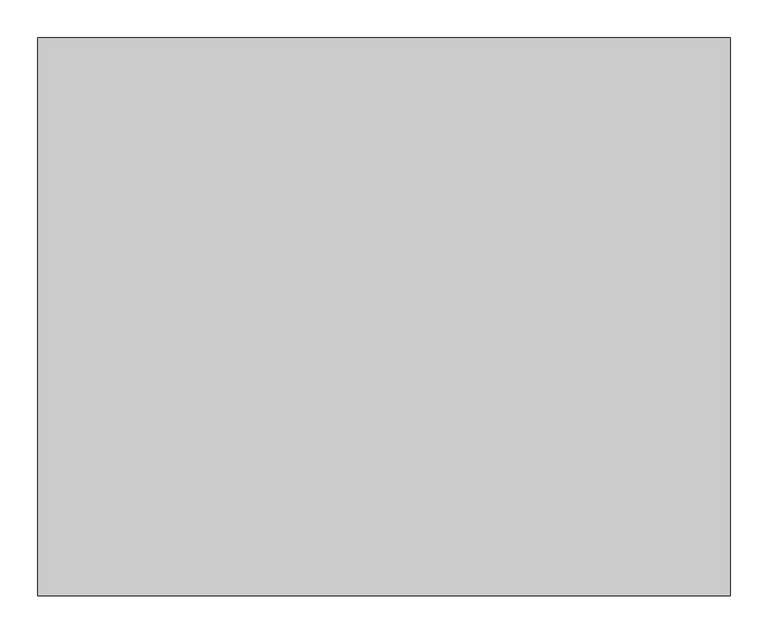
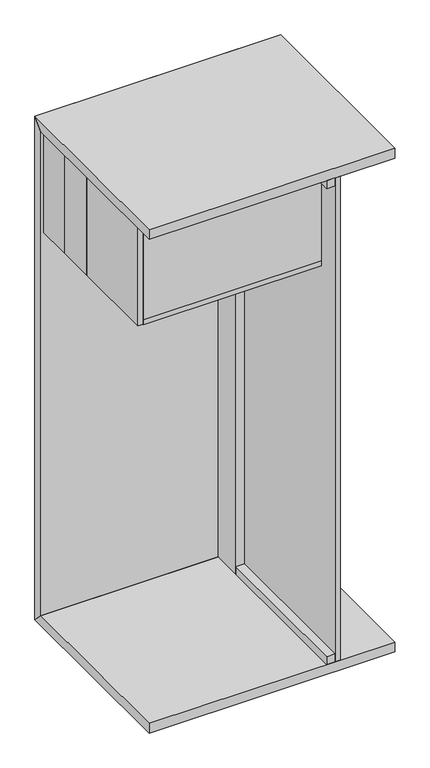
"""IFC4 building model written with IfcOpenShell, lengths in millimetres: proxy geometry, AERO^OFFICE 4_36x78 DESK PED RT HAT BRIDGE-PARTS SOLID."""

from ifc_helpers import new_model, si_unit, frame, origin, place, context, project, spatial, polyline, outline, extrude, source, transform, mapped, element, save


def generic_models_7188f9cc(model_context):
    return source(origin(), model_context, "Body", "SweptSolid", [
        extrude(outline(polyline([(0.0, -1943.1), (38.1, -1981.2), (-698.5, -1981.2), (-698.5, -1943.1), (0.0, -1943.1)])), frame((0.0, 0.0, 0.0), z_axis=(1.0, 0.0, 0.0), x_axis=(0.0, 1.0, 0.0)), (0.0, 0.0, 1.0), 914.4),
        extrude(outline(polyline([(-419.1, 692.15), (-69.85, 692.15), (-69.85, 660.4), (-57.15, 711.2), (-57.15, 28.575), (-419.1, 28.575), (-419.1, 692.15)])), frame((0.0, -609.6, 0.0), z_axis=(0.0, 1.0, 0.0), x_axis=(0.0, 0.0, 1.0)), (0.0, 0.0, 1.0), 19.05),
        extrude(outline(polyline([(692.15, -114.3), (692.15, -698.5), (660.4, -698.5), (660.4, -114.3), (692.15, -114.3)])), frame((0.0, 0.0, -69.85), z_axis=(0.0, 0.0, 1.0), x_axis=(1.0, 0.0, 0.0)), (0.0, 0.0, 1.0), 31.75),
        extrude(outline(polyline([(9.525, 9.525), (28.575, 9.525), (28.575, -134.14375), (9.525, -134.14375), (9.525, 9.525)])), frame((0.0, 0.0, -435.76875), z_axis=(0.0, 0.0, 1.0), x_axis=(1.0, 0.0, 0.0)), (0.0, 0.0, 1.0), 407.19375),
        extrude(outline(polyline([(692.15, -114.3), (692.15, -698.5), (660.4, -698.5), (660.4, -114.3), (692.15, -114.3)])), frame((0.0, 0.0, -1943.1), z_axis=(0.0, 0.0, 1.0), x_axis=(1.0, 0.0, 0.0)), (0.0, 0.0, 1.0), 31.75),
        extrude(outline(polyline([(692.15, 0.0), (692.15, -609.6), (28.575, -609.6), (28.575, 0.0), (692.15, 0.0)])), frame((0.0, 0.0, -438.15), z_axis=(0.0, 0.0, 1.0), x_axis=(1.0, 0.0, 0.0)), (0.0, 0.0, 1.0), 19.05),
        extrude(outline(polyline([(692.15, 0.0), (692.15, -114.3), (660.4, -114.3), (660.4, 0.0), (692.15, 0.0)])), frame((0.0, 0.0, -1943.1), z_axis=(0.0, 0.0, 1.0), x_axis=(1.0, 0.0, 0.0)), (0.0, 0.0, 1.0), 1905.0),
        extrude(outline(polyline([(9.525, -609.6), (9.525, -282.575), (28.575, -282.575), (28.575, -609.6), (9.525, -609.6)])), frame((0.0, 0.0, -435.76875), z_axis=(0.0, 0.0, 1.0), x_axis=(1.0, 0.0, 0.0)), (0.0, 0.0, 1.0), 407.19375),
        extrude(outline(polyline([(28.575, 0.0), (711.2, 0.0), (711.2, -609.6), (28.575, -609.6), (28.575, 0.0)])), frame((0.0, 0.0, -57.15), z_axis=(0.0, 0.0, 1.0), x_axis=(1.0, 0.0, 0.0)), (0.0, 0.0, 1.0), 19.05),
        extrude(outline(polyline([(-698.5, -38.1), (-698.5, 0.0), (38.1, 0.0), (0.0, -38.1), (-698.5, -38.1)])), frame((0.0, 0.0, 0.0), z_axis=(1.0, 0.0, 0.0), x_axis=(0.0, 1.0, 0.0)), (0.0, 0.0, 1.0), 914.4),
        extrude(outline(polyline([(0.0, -1943.1), (0.0, -38.1), (38.1, 0.0), (38.1, -1981.2), (0.0, -1943.1)])), frame((0.0, 0.0, 0.0), z_axis=(1.0, 0.0, 0.0), x_axis=(0.0, 1.0, 0.0)), (0.0, 0.0, 1.0), 914.4),
        extrude(outline(polyline([(9.525, -280.19375), (9.525, -136.525), (28.575, -136.525), (28.575, -280.19375), (9.525, -280.19375)])), frame((0.0, 0.0, -435.76875), z_axis=(0.0, 0.0, 1.0), x_axis=(1.0, 0.0, 0.0)), (0.0, 0.0, 1.0), 407.19375),
        extrude(outline(polyline([(711.2, -698.5), (692.15, -698.5), (692.15, 0.0), (711.2, 0.0), (711.2, -698.5)])), frame((0.0, 0.0, -1943.1), z_axis=(0.0, 0.0, 1.0), x_axis=(1.0, 0.0, 0.0)), (0.0, 0.0, 1.0), 1905.0),
    ])


if __name__ == "__main__":
    model = new_model("IFC4")
    model_context = context("Model", 3, world=origin())
    ifc_project = project(units=[si_unit("LENGTHUNIT", "METRE", prefix="MILLI")], contexts=[model_context])
    site = spatial("IfcSite", under=ifc_project)
    building = spatial("IfcBuilding", under=site)
    placement = place(None, origin())
    generic_models_shape = generic_models_7188f9cc(model_context)
    element("IfcBuildingElementProxy", 1, Name="AERO^OFFICE 4_36x78 DESK PED RT HAT BRIDGE-PARTS SOLID", ObjectType="AERO^OFFICE 4_36x78 DESK PED RT HAT BRIDGE-PARTS SOLID", at=placement, inside=building, context=model_context, shape_type="MappedRepresentation", body=[
        mapped(generic_models_shape, transform((0.0, 0.0, 0.0), x_axis=(1.0, 0.0, 0.0), y_axis=(0.0, 1.0, 0.0), z_axis=(0.0, 0.0, 1.0))),
    ])
    save(model, "model.ifc")
